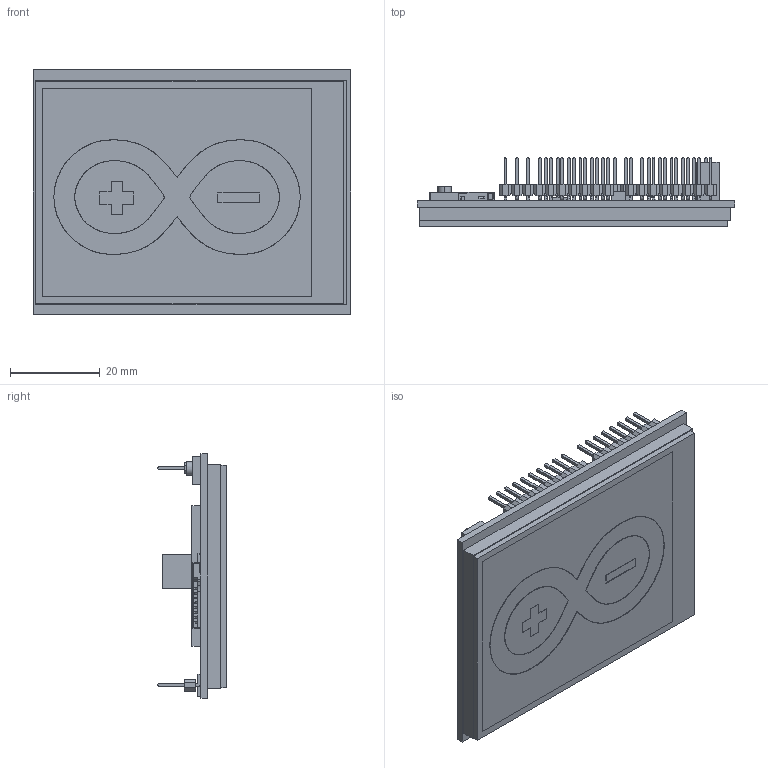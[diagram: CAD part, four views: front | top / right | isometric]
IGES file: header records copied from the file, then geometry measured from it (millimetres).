
Start section: SolidWorks IGES file using analytic representation for surfaces
Global section: file name: E:\Adafruit-1947-2.8in TFT LCD shield with Cap Touch and microSD.IGS; native system: SolidWorks 2013; preprocessor: SolidWorks 2013; author: Admin; date: 150406.121330; units: millimetre
Bounding box: 70.8 x 15.45 x 54.5 mm (x, y, z)
Surface area: 26631.7 mm2 (no closed solid volume)
Topology: 0 solids, 0 shells, 1839 faces, 12127 edges, 12127 vertices
Faces by surface type: bspline 1526, revolution 313
